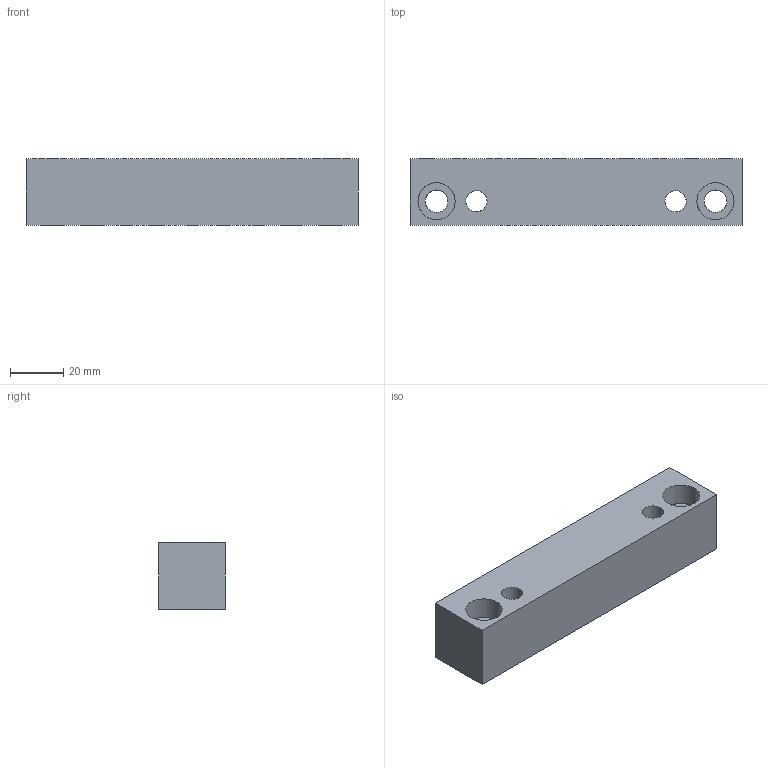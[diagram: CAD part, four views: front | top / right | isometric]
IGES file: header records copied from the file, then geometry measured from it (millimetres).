
Start section: START RECORD GO HERE.
Global section: file name: G40530125.igs; native system: DASSAULT SYSTEMES CATIA V5 R20 - www.3ds.com; preprocessor: CATIA Version 5 Release 20 ; author: r.borello; organization: CFTORINO; date: 20190624.145954; units: millimetre
Bounding box: 125 x 25 x 25 mm (x, y, z)
Surface area: 19496.2 mm2 (no closed solid volume)
Topology: 0 solids, 0 shells, 386 faces, 1656 edges, 1480 vertices
Faces by surface type: revolution 340, plane 46
